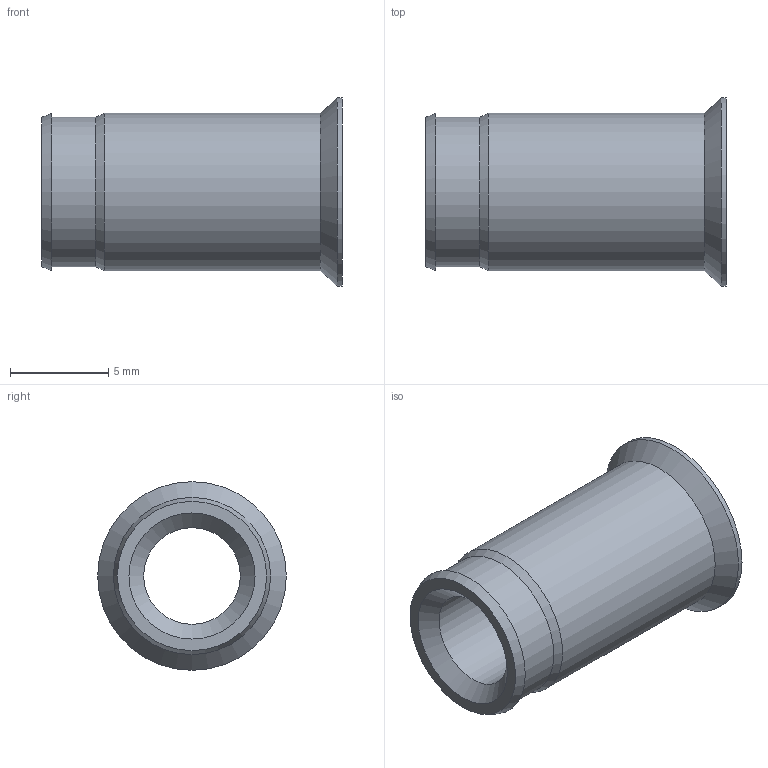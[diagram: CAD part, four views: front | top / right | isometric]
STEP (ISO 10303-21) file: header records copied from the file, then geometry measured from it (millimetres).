
FILE_DESCRIPTION(/* description */ (''),/* implementation_level */ '2;1');
FILE_NAME(/* name */ 'C:\Users\matthiask.LAMELLONET\Desktop\Cabineo_Muffe_M6x15.3mm.stp',/* time_stamp */ '2021-07-08T08:33:40+02:00',/* author */ ('matthiask'),/* organization */ (''),/* preprocessor_version */ 'ST-DEVELOPER v18',/* originating_system */ 'Autodesk Inventor 2020',/* authorisation */ '');
FILE_SCHEMA (('AUTOMOTIVE_DESIGN { 1 0 10303 214 3 1 1 }'));
Length unit declared in the file: millimetre
Products named in the file (1): PBTL-346313
Bounding box: 15.3 x 9.6 x 9.6 mm (x, y, z)
Volume: 470.6 mm3; surface area: 704 mm2
Topology: 1 solids, 1 shells, 12 faces, 30 edges, 21 vertices
Faces by surface type: cone 5, cylinder 4, plane 3
Full cylindrical faces by diameter (mm): 4.917 x1, 7.6 x1, 8 x1, 9.6 x1
Entity records: 424 total; most frequent: DIRECTION 77, CARTESIAN_POINT 64, ORIENTED_EDGE 60, AXIS2_PLACEMENT_3D 34, EDGE_CURVE 30, CIRCLE 21, VERTEX_POINT 21, EDGE_LOOP 15
